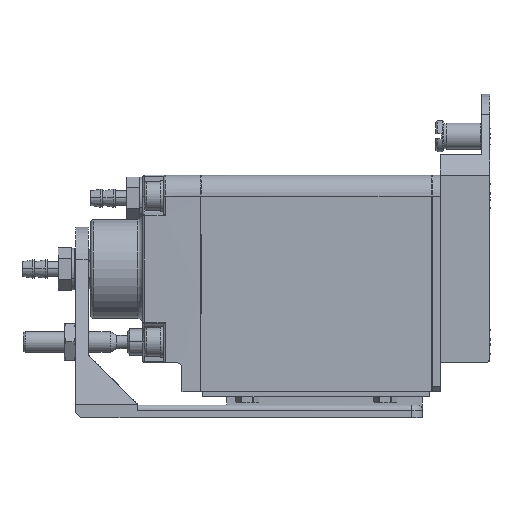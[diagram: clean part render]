
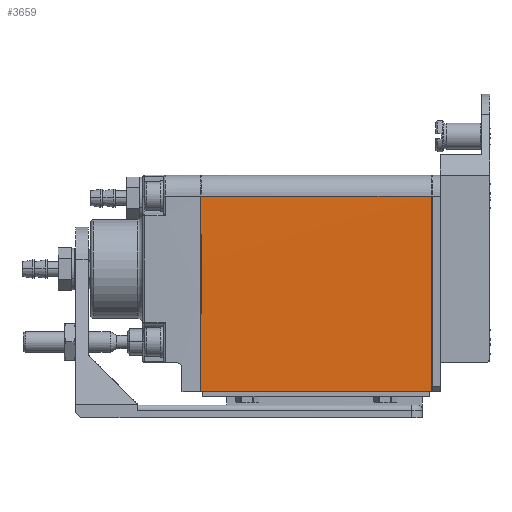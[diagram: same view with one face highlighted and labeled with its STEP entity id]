
A CAD part, left-side view. The second image highlights one B-rep face of the part: STEP entity #3659.
In plain terms, the highlighted planar face has unit normal (-1, 0, 0).
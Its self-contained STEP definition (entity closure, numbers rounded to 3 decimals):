
#143 = ORIENTED_EDGE ( 'NONE', *, *, #2483, .T. ) ;
#1857 = ORIENTED_EDGE ( 'NONE', *, *, #15549, .F. ) ;
#1975 = EDGE_CURVE ( 'NONE', #26867, #30300, #15370, .T. ) ;
#2483 = EDGE_CURVE ( 'NONE', #42486, #28587, #42955, .T. ) ;
#3659 = ADVANCED_FACE ( 'NONE', ( #13427 ), #29460, .T. ) ;
#4163 = CARTESIAN_POINT ( 'NONE',  ( -14., 22.25, 14. ) ) ;
#4684 = DIRECTION ( 'NONE',  ( 0., 0., -1. ) ) ;
#4786 = CARTESIAN_POINT ( 'NONE',  ( -14., 44.3, -4.75 ) ) ;
#9681 = ORIENTED_EDGE ( 'NONE', *, *, #45667, .T. ) ;
#13427 = FACE_OUTER_BOUND ( 'NONE', #17878, .T. ) ;
#15370 = LINE ( 'NONE', #4786, #34598 ) ;
#15549 = EDGE_CURVE ( 'NONE', #42486, #30300, #27413, .T. ) ;
#15914 = CARTESIAN_POINT ( 'NONE',  ( -14., 0.2, -23.5 ) ) ;
#17681 = VECTOR ( 'NONE', #18507, 1000. ) ;
#17878 = EDGE_LOOP ( 'NONE', ( #143, #9681, #42103, #1857 ) ) ;
#18507 = DIRECTION ( 'NONE',  ( 0., 1., 0. ) ) ;
#22447 = CARTESIAN_POINT ( 'NONE',  ( -14., 22.25, -23.5 ) ) ;
#26036 = CARTESIAN_POINT ( 'NONE',  ( -13.95, 44.425, 14. ) ) ;
#26867 = VERTEX_POINT ( 'NONE', #26036 ) ;
#27413 = LINE ( 'NONE', #22447, #45436 ) ;
#28114 = DIRECTION ( 'NONE',  ( 0., 0., 1. ) ) ;
#28262 = DIRECTION ( 'NONE',  ( -1., 0., 0. ) ) ;
#28324 = CARTESIAN_POINT ( 'NONE',  ( -14., -4.21, -27.25 ) ) ;
#28587 = VERTEX_POINT ( 'NONE', #45160 ) ;
#29460 = PLANE ( 'NONE',  #44775 ) ;
#29623 = CARTESIAN_POINT ( 'NONE',  ( -13.933, 44.433, -23.5 ) ) ;
#30300 = VERTEX_POINT ( 'NONE', #29623 ) ;
#33353 = VECTOR ( 'NONE', #41104, 1000. ) ;
#34598 = VECTOR ( 'NONE', #4684, 1000. ) ;
#39156 = CARTESIAN_POINT ( 'NONE',  ( -14., 0.2, -4.75 ) ) ;
#40362 = DIRECTION ( 'NONE',  ( 0., 1., 0. ) ) ;
#41104 = DIRECTION ( 'NONE',  ( 0., 0., 1. ) ) ;
#42103 = ORIENTED_EDGE ( 'NONE', *, *, #1975, .T. ) ;
#42486 = VERTEX_POINT ( 'NONE', #15914 ) ;
#42955 = LINE ( 'NONE', #39156, #33353 ) ;
#44775 = AXIS2_PLACEMENT_3D ( 'NONE', #28324, #28262, #28114 ) ;
#45160 = CARTESIAN_POINT ( 'NONE',  ( -14., 0.2, 14. ) ) ;
#45376 = LINE ( 'NONE', #4163, #17681 ) ;
#45436 = VECTOR ( 'NONE', #40362, 1000. ) ;
#45667 = EDGE_CURVE ( 'NONE', #28587, #26867, #45376, .T. ) ;
